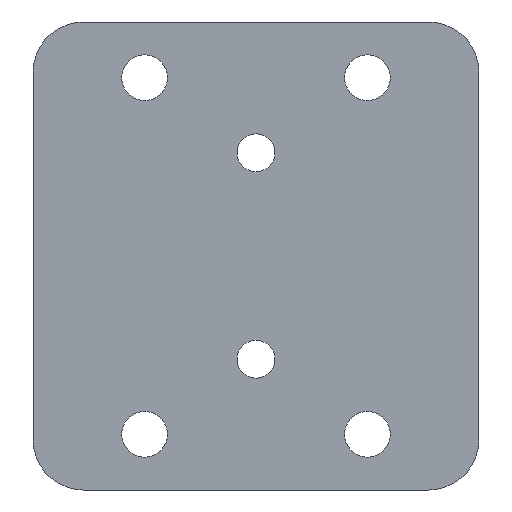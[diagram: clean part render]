
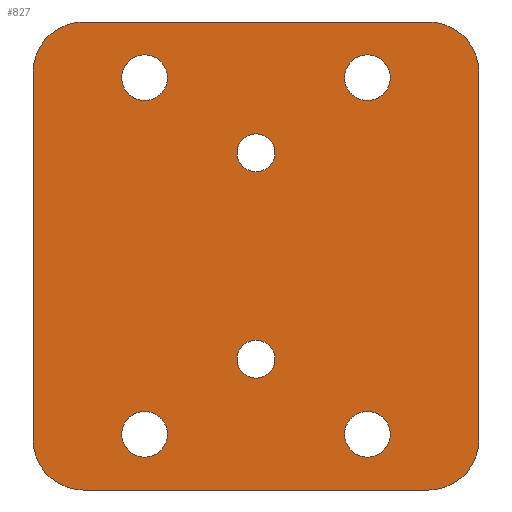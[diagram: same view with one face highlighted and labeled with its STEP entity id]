
A CAD part, front view. The second image highlights one B-rep face of the part: STEP entity #827.
In plain terms, the highlighted planar face has unit normal (0, -1, 0).
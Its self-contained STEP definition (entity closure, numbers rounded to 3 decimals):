
#43=FACE_BOUND('',#198,.T.);
#44=FACE_BOUND('',#199,.T.);
#45=FACE_BOUND('',#200,.T.);
#46=FACE_BOUND('',#201,.T.);
#47=FACE_BOUND('',#202,.T.);
#48=FACE_BOUND('',#203,.T.);
#64=CIRCLE('',#880,9.);
#65=CIRCLE('',#883,9.);
#85=CIRCLE('',#926,9.);
#86=CIRCLE('',#927,9.);
#87=CIRCLE('',#928,4.1);
#88=CIRCLE('',#929,4.1);
#89=CIRCLE('',#930,4.1);
#90=CIRCLE('',#931,4.1);
#91=CIRCLE('',#932,3.39);
#92=CIRCLE('',#933,3.39);
#139=FACE_OUTER_BOUND('',#197,.T.);
#197=EDGE_LOOP('',(#717,#718,#719,#720,#721,#722,#723,#724));
#198=EDGE_LOOP('',(#725));
#199=EDGE_LOOP('',(#726));
#200=EDGE_LOOP('',(#727));
#201=EDGE_LOOP('',(#728));
#202=EDGE_LOOP('',(#729));
#203=EDGE_LOOP('',(#730));
#246=LINE('',#1299,#316);
#250=LINE('',#1308,#320);
#253=LINE('',#1316,#323);
#274=LINE('',#1403,#344);
#316=VECTOR('',#1034,10.);
#320=VECTOR('',#1044,10.);
#323=VECTOR('',#1053,10.);
#344=VECTOR('',#1158,10.);
#389=VERTEX_POINT('',#1296);
#390=VERTEX_POINT('',#1298);
#391=VERTEX_POINT('',#1302);
#392=VERTEX_POINT('',#1306);
#393=VERTEX_POINT('',#1310);
#394=VERTEX_POINT('',#1314);
#417=VERTEX_POINT('',#1400);
#418=VERTEX_POINT('',#1402);
#419=VERTEX_POINT('',#1405);
#420=VERTEX_POINT('',#1407);
#421=VERTEX_POINT('',#1409);
#422=VERTEX_POINT('',#1411);
#423=VERTEX_POINT('',#1413);
#424=VERTEX_POINT('',#1415);
#473=EDGE_CURVE('',#390,#389,#246,.T.);
#476=EDGE_CURVE('',#391,#389,#64,.T.);
#478=EDGE_CURVE('',#391,#392,#250,.T.);
#480=EDGE_CURVE('',#393,#392,#65,.T.);
#482=EDGE_CURVE('',#393,#394,#253,.T.);
#522=EDGE_CURVE('',#417,#394,#85,.T.);
#523=EDGE_CURVE('',#417,#418,#274,.T.);
#524=EDGE_CURVE('',#390,#418,#86,.T.);
#525=EDGE_CURVE('',#419,#419,#87,.T.);
#526=EDGE_CURVE('',#420,#420,#88,.T.);
#527=EDGE_CURVE('',#421,#421,#89,.T.);
#528=EDGE_CURVE('',#422,#422,#90,.T.);
#529=EDGE_CURVE('',#423,#423,#91,.F.);
#530=EDGE_CURVE('',#424,#424,#92,.F.);
#717=ORIENTED_EDGE('',*,*,#480,.F.);
#718=ORIENTED_EDGE('',*,*,#482,.T.);
#719=ORIENTED_EDGE('',*,*,#522,.F.);
#720=ORIENTED_EDGE('',*,*,#523,.T.);
#721=ORIENTED_EDGE('',*,*,#524,.F.);
#722=ORIENTED_EDGE('',*,*,#473,.T.);
#723=ORIENTED_EDGE('',*,*,#476,.F.);
#724=ORIENTED_EDGE('',*,*,#478,.T.);
#725=ORIENTED_EDGE('',*,*,#525,.T.);
#726=ORIENTED_EDGE('',*,*,#526,.T.);
#727=ORIENTED_EDGE('',*,*,#527,.T.);
#728=ORIENTED_EDGE('',*,*,#528,.T.);
#729=ORIENTED_EDGE('',*,*,#529,.T.);
#730=ORIENTED_EDGE('',*,*,#530,.T.);
#787=PLANE('',#925);
#827=ADVANCED_FACE('',(#139,#43,#44,#45,#46,#47,#48),#787,.F.);
#880=AXIS2_PLACEMENT_3D('',#1304,#1039,#1040);
#883=AXIS2_PLACEMENT_3D('',#1312,#1048,#1049);
#925=AXIS2_PLACEMENT_3D('',#1399,#1154,#1155);
#926=AXIS2_PLACEMENT_3D('',#1401,#1156,#1157);
#927=AXIS2_PLACEMENT_3D('',#1404,#1159,#1160);
#928=AXIS2_PLACEMENT_3D('',#1406,#1161,#1162);
#929=AXIS2_PLACEMENT_3D('',#1408,#1163,#1164);
#930=AXIS2_PLACEMENT_3D('',#1410,#1165,#1166);
#931=AXIS2_PLACEMENT_3D('',#1412,#1167,#1168);
#932=AXIS2_PLACEMENT_3D('',#1414,#1169,#1170);
#933=AXIS2_PLACEMENT_3D('',#1416,#1171,#1172);
#1034=DIRECTION('',(0.,0.,-1.));
#1039=DIRECTION('center_axis',(0.,1.,0.));
#1040=DIRECTION('ref_axis',(-0.707,0.,-0.707));
#1044=DIRECTION('',(1.,0.,0.));
#1048=DIRECTION('center_axis',(0.,1.,0.));
#1049=DIRECTION('ref_axis',(0.707,0.,-0.707));
#1053=DIRECTION('',(0.,0.,1.));
#1154=DIRECTION('center_axis',(0.,1.,0.));
#1155=DIRECTION('ref_axis',(1.,0.,0.));
#1156=DIRECTION('center_axis',(0.,1.,0.));
#1157=DIRECTION('ref_axis',(0.707,0.,0.707));
#1158=DIRECTION('',(-1.,0.,0.));
#1159=DIRECTION('center_axis',(0.,1.,0.));
#1160=DIRECTION('ref_axis',(-0.707,0.,0.707));
#1161=DIRECTION('center_axis',(0.,1.,0.));
#1162=DIRECTION('ref_axis',(1.,0.,0.));
#1163=DIRECTION('center_axis',(0.,1.,0.));
#1164=DIRECTION('ref_axis',(1.,0.,0.));
#1165=DIRECTION('center_axis',(0.,1.,0.));
#1166=DIRECTION('ref_axis',(1.,0.,0.));
#1167=DIRECTION('center_axis',(0.,1.,0.));
#1168=DIRECTION('ref_axis',(1.,0.,0.));
#1169=DIRECTION('center_axis',(0.,-1.,0.));
#1170=DIRECTION('ref_axis',(0.,0.,1.));
#1171=DIRECTION('center_axis',(0.,-1.,0.));
#1172=DIRECTION('ref_axis',(0.,0.,1.));
#1296=CARTESIAN_POINT('',(0.,-16.,9.));
#1298=CARTESIAN_POINT('',(0.,-16.,75.));
#1299=CARTESIAN_POINT('',(0.,-16.,84.));
#1302=CARTESIAN_POINT('',(9.,-16.,0.));
#1304=CARTESIAN_POINT('Origin',(9.,-16.,9.));
#1306=CARTESIAN_POINT('',(71.,-16.,0.));
#1308=CARTESIAN_POINT('',(0.,-16.,0.));
#1310=CARTESIAN_POINT('',(80.,-16.,9.));
#1312=CARTESIAN_POINT('Origin',(71.,-16.,9.));
#1314=CARTESIAN_POINT('',(80.,-16.,75.));
#1316=CARTESIAN_POINT('',(80.,-16.,0.));
#1399=CARTESIAN_POINT('Origin',(40.,-16.,42.));
#1400=CARTESIAN_POINT('',(71.,-16.,84.));
#1401=CARTESIAN_POINT('Origin',(71.,-16.,75.));
#1402=CARTESIAN_POINT('',(9.,-16.,84.));
#1403=CARTESIAN_POINT('',(80.,-16.,84.));
#1404=CARTESIAN_POINT('Origin',(9.,-16.,75.));
#1405=CARTESIAN_POINT('',(55.9,-16.,74.));
#1406=CARTESIAN_POINT('Origin',(60.,-16.,74.));
#1407=CARTESIAN_POINT('',(15.9,-16.,10.));
#1408=CARTESIAN_POINT('Origin',(20.,-16.,10.));
#1409=CARTESIAN_POINT('',(55.9,-16.,10.));
#1410=CARTESIAN_POINT('Origin',(60.,-16.,10.));
#1411=CARTESIAN_POINT('',(15.9,-16.,74.));
#1412=CARTESIAN_POINT('Origin',(20.,-16.,74.));
#1413=CARTESIAN_POINT('',(40.,-16.,57.135));
#1414=CARTESIAN_POINT('Origin',(40.,-16.,60.525));
#1415=CARTESIAN_POINT('',(40.,-16.,20.085));
#1416=CARTESIAN_POINT('Origin',(40.,-16.,23.475));
